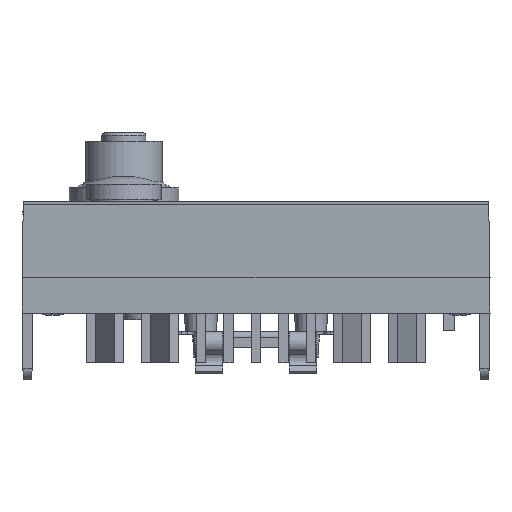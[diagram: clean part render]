
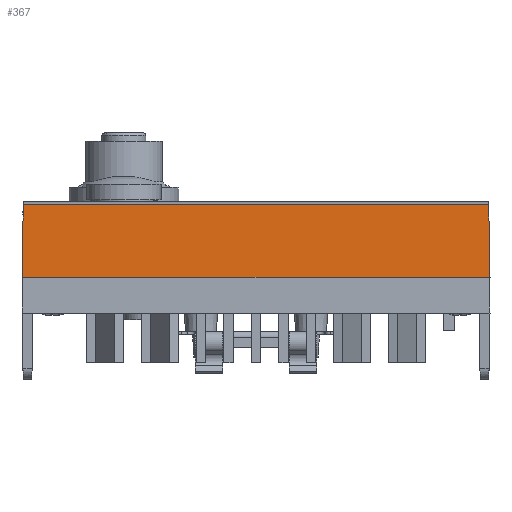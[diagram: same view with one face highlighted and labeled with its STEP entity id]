
A CAD part, front view. The second image highlights one B-rep face of the part: STEP entity #367.
In plain terms, the highlighted planar face has unit normal (0, -1, 0.018).
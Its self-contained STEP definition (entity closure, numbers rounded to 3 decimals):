
#367 = ADVANCED_FACE( '', ( #1601 ), #1602, .T. );
#1601 = FACE_OUTER_BOUND( '', #3618, .T. );
#1602 = PLANE( '', #3619 );
#3618 = EDGE_LOOP( '', ( #7036, #7037, #7038, #7039 ) );
#3619 = AXIS2_PLACEMENT_3D( '', #7040, #7041, #7042 );
#7036 = ORIENTED_EDGE( '', *, *, #12188, .F. );
#7037 = ORIENTED_EDGE( '', *, *, #12208, .T. );
#7038 = ORIENTED_EDGE( '', *, *, #12197, .T. );
#7039 = ORIENTED_EDGE( '', *, *, #12209, .T. );
#7040 = CARTESIAN_POINT( '', ( -42.5, -57.5, 6.5 ) );
#7041 = DIRECTION( '', ( 0., -1., 0.017 ) );
#7042 = DIRECTION( '', ( 0., -0.017, -1. ) );
#12188 = EDGE_CURVE( '', #15007, #15009, #15010, .T. );
#12197 = EDGE_CURVE( '', #15026, #15024, #15027, .T. );
#12208 = EDGE_CURVE( '', #15007, #15026, #15046, .T. );
#12209 = EDGE_CURVE( '', #15024, #15009, #15047, .T. );
#15007 = VERTEX_POINT( '', #19250 );
#15009 = VERTEX_POINT( '', #19252 );
#15010 = LINE( '', #19253, #19254 );
#15024 = VERTEX_POINT( '', #19273 );
#15026 = VERTEX_POINT( '', #19276 );
#15027 = LINE( '', #19277, #19278 );
#15046 = LINE( '', #19305, #19306 );
#15047 = LINE( '', #19307, #19308 );
#19250 = CARTESIAN_POINT( '', ( 42.27, -57.27, 19.65 ) );
#19252 = CARTESIAN_POINT( '', ( 42.5, -57.5, 6.5 ) );
#19253 = CARTESIAN_POINT( '', ( 42.5, -57.5, 6.5 ) );
#19254 = VECTOR( '', #23612, 1000. );
#19273 = CARTESIAN_POINT( '', ( -42.5, -57.5, 6.5 ) );
#19276 = CARTESIAN_POINT( '', ( -42.27, -57.27, 19.65 ) );
#19277 = CARTESIAN_POINT( '', ( -42.5, -57.5, 6.5 ) );
#19278 = VECTOR( '', #23625, 1000. );
#19305 = CARTESIAN_POINT( '', ( 45., -57.27, 19.65 ) );
#19306 = VECTOR( '', #23640, 1000. );
#19307 = CARTESIAN_POINT( '', ( -42.5, -57.5, 6.5 ) );
#19308 = VECTOR( '', #23641, 1000. );
#23612 = DIRECTION( '', ( 0.017, -0.017, -1. ) );
#23625 = DIRECTION( '', ( -0.017, -0.017, -1. ) );
#23640 = DIRECTION( '', ( -1., 0., 0. ) );
#23641 = DIRECTION( '', ( 1., 0., 0. ) );
